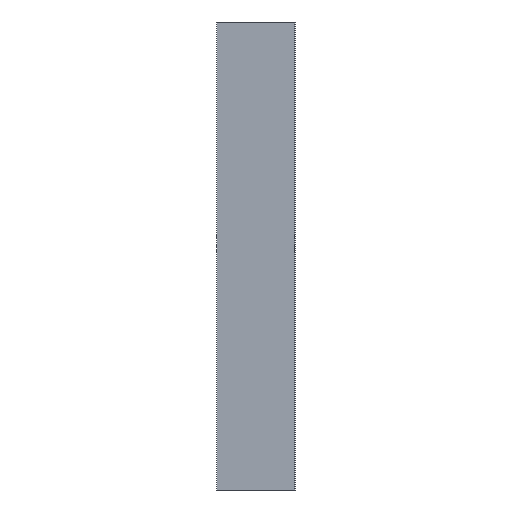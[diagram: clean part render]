
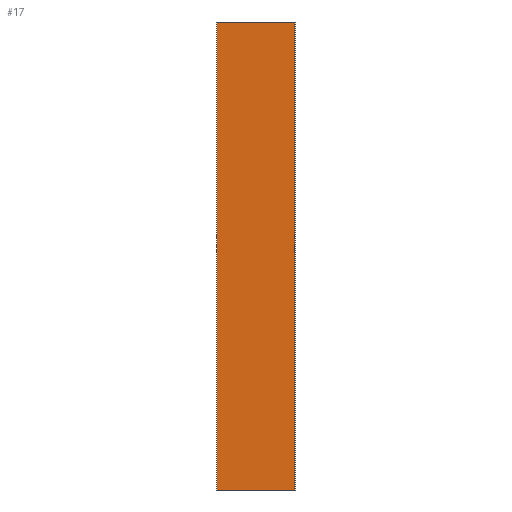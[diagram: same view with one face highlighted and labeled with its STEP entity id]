
A CAD part, left-side view. The second image highlights one B-rep face of the part: STEP entity #17.
In plain terms, the highlighted planar face has unit normal (-1, 0, 0).
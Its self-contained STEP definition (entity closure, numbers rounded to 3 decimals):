
#17 = ADVANCED_FACE('',(#18),#32,.F.);
#18 = FACE_BOUND('',#19,.F.);
#19 = EDGE_LOOP('',(#20,#55,#83,#111));
#20 = ORIENTED_EDGE('',*,*,#21,.F.);
#21 = EDGE_CURVE('',#22,#24,#26,.T.);
#22 = VERTEX_POINT('',#23);
#23 = CARTESIAN_POINT('',(-150.,202.,70.));
#24 = VERTEX_POINT('',#25);
#25 = CARTESIAN_POINT('',(-150.,202.,82.));
#26 = SURFACE_CURVE('',#27,(#31,#43),.PCURVE_S1.);
#27 = LINE('',#28,#29);
#28 = CARTESIAN_POINT('',(-150.,202.,70.));
#29 = VECTOR('',#30,1.);
#30 = DIRECTION('',(0.,0.,1.));
#31 = PCURVE('',#32,#37);
#32 = PLANE('',#33);
#33 = AXIS2_PLACEMENT_3D('',#34,#35,#36);
#34 = CARTESIAN_POINT('',(-150.,202.,70.));
#35 = DIRECTION('',(1.,0.,0.));
#36 = DIRECTION('',(0.,0.,1.));
#37 = DEFINITIONAL_REPRESENTATION('',(#38),#42);
#38 = LINE('',#39,#40);
#39 = CARTESIAN_POINT('',(0.,0.));
#40 = VECTOR('',#41,1.);
#41 = DIRECTION('',(1.,0.));
#42 = ( GEOMETRIC_REPRESENTATION_CONTEXT(2) 
PARAMETRIC_REPRESENTATION_CONTEXT() REPRESENTATION_CONTEXT('2D SPACE',''
  ) );
#43 = PCURVE('',#44,#49);
#44 = PLANE('',#45);
#45 = AXIS2_PLACEMENT_3D('',#46,#47,#48);
#46 = CARTESIAN_POINT('',(-150.,202.,70.));
#47 = DIRECTION('',(0.,1.,0.));
#48 = DIRECTION('',(0.,0.,1.));
#49 = DEFINITIONAL_REPRESENTATION('',(#50),#54);
#50 = LINE('',#51,#52);
#51 = CARTESIAN_POINT('',(0.,0.));
#52 = VECTOR('',#53,1.);
#53 = DIRECTION('',(1.,0.));
#54 = ( GEOMETRIC_REPRESENTATION_CONTEXT(2) 
PARAMETRIC_REPRESENTATION_CONTEXT() REPRESENTATION_CONTEXT('2D SPACE',''
  ) );
#55 = ORIENTED_EDGE('',*,*,#56,.T.);
#56 = EDGE_CURVE('',#22,#57,#59,.T.);
#57 = VERTEX_POINT('',#58);
#58 = CARTESIAN_POINT('',(-150.,204.,70.));
#59 = SURFACE_CURVE('',#60,(#64,#71),.PCURVE_S1.);
#60 = LINE('',#61,#62);
#61 = CARTESIAN_POINT('',(-150.,202.,70.));
#62 = VECTOR('',#63,1.);
#63 = DIRECTION('',(0.,1.,0.));
#64 = PCURVE('',#32,#65);
#65 = DEFINITIONAL_REPRESENTATION('',(#66),#70);
#66 = LINE('',#67,#68);
#67 = CARTESIAN_POINT('',(0.,0.));
#68 = VECTOR('',#69,1.);
#69 = DIRECTION('',(0.,-1.));
#70 = ( GEOMETRIC_REPRESENTATION_CONTEXT(2) 
PARAMETRIC_REPRESENTATION_CONTEXT() REPRESENTATION_CONTEXT('2D SPACE',''
  ) );
#71 = PCURVE('',#72,#77);
#72 = PLANE('',#73);
#73 = AXIS2_PLACEMENT_3D('',#74,#75,#76);
#74 = CARTESIAN_POINT('',(-150.,202.,70.));
#75 = DIRECTION('',(0.,0.,1.));
#76 = DIRECTION('',(1.,0.,0.));
#77 = DEFINITIONAL_REPRESENTATION('',(#78),#82);
#78 = LINE('',#79,#80);
#79 = CARTESIAN_POINT('',(0.,0.));
#80 = VECTOR('',#81,1.);
#81 = DIRECTION('',(0.,1.));
#82 = ( GEOMETRIC_REPRESENTATION_CONTEXT(2) 
PARAMETRIC_REPRESENTATION_CONTEXT() REPRESENTATION_CONTEXT('2D SPACE',''
  ) );
#83 = ORIENTED_EDGE('',*,*,#84,.T.);
#84 = EDGE_CURVE('',#57,#85,#87,.T.);
#85 = VERTEX_POINT('',#86);
#86 = CARTESIAN_POINT('',(-150.,204.,82.));
#87 = SURFACE_CURVE('',#88,(#92,#99),.PCURVE_S1.);
#88 = LINE('',#89,#90);
#89 = CARTESIAN_POINT('',(-150.,204.,70.));
#90 = VECTOR('',#91,1.);
#91 = DIRECTION('',(0.,0.,1.));
#92 = PCURVE('',#32,#93);
#93 = DEFINITIONAL_REPRESENTATION('',(#94),#98);
#94 = LINE('',#95,#96);
#95 = CARTESIAN_POINT('',(0.,-2.));
#96 = VECTOR('',#97,1.);
#97 = DIRECTION('',(1.,0.));
#98 = ( GEOMETRIC_REPRESENTATION_CONTEXT(2) 
PARAMETRIC_REPRESENTATION_CONTEXT() REPRESENTATION_CONTEXT('2D SPACE',''
  ) );
#99 = PCURVE('',#100,#105);
#100 = PLANE('',#101);
#101 = AXIS2_PLACEMENT_3D('',#102,#103,#104);
#102 = CARTESIAN_POINT('',(-150.,204.,70.));
#103 = DIRECTION('',(0.,1.,0.));
#104 = DIRECTION('',(0.,0.,1.));
#105 = DEFINITIONAL_REPRESENTATION('',(#106),#110);
#106 = LINE('',#107,#108);
#107 = CARTESIAN_POINT('',(0.,0.));
#108 = VECTOR('',#109,1.);
#109 = DIRECTION('',(1.,0.));
#110 = ( GEOMETRIC_REPRESENTATION_CONTEXT(2) 
PARAMETRIC_REPRESENTATION_CONTEXT() REPRESENTATION_CONTEXT('2D SPACE',''
  ) );
#111 = ORIENTED_EDGE('',*,*,#112,.F.);
#112 = EDGE_CURVE('',#24,#85,#113,.T.);
#113 = SURFACE_CURVE('',#114,(#118,#125),.PCURVE_S1.);
#114 = LINE('',#115,#116);
#115 = CARTESIAN_POINT('',(-150.,202.,82.));
#116 = VECTOR('',#117,1.);
#117 = DIRECTION('',(0.,1.,0.));
#118 = PCURVE('',#32,#119);
#119 = DEFINITIONAL_REPRESENTATION('',(#120),#124);
#120 = LINE('',#121,#122);
#121 = CARTESIAN_POINT('',(12.,0.));
#122 = VECTOR('',#123,1.);
#123 = DIRECTION('',(0.,-1.));
#124 = ( GEOMETRIC_REPRESENTATION_CONTEXT(2) 
PARAMETRIC_REPRESENTATION_CONTEXT() REPRESENTATION_CONTEXT('2D SPACE',''
  ) );
#125 = PCURVE('',#126,#131);
#126 = PLANE('',#127);
#127 = AXIS2_PLACEMENT_3D('',#128,#129,#130);
#128 = CARTESIAN_POINT('',(-150.,202.,82.));
#129 = DIRECTION('',(0.,0.,1.));
#130 = DIRECTION('',(1.,0.,0.));
#131 = DEFINITIONAL_REPRESENTATION('',(#132),#136);
#132 = LINE('',#133,#134);
#133 = CARTESIAN_POINT('',(0.,0.));
#134 = VECTOR('',#135,1.);
#135 = DIRECTION('',(0.,1.));
#136 = ( GEOMETRIC_REPRESENTATION_CONTEXT(2) 
PARAMETRIC_REPRESENTATION_CONTEXT() REPRESENTATION_CONTEXT('2D SPACE',''
  ) );
